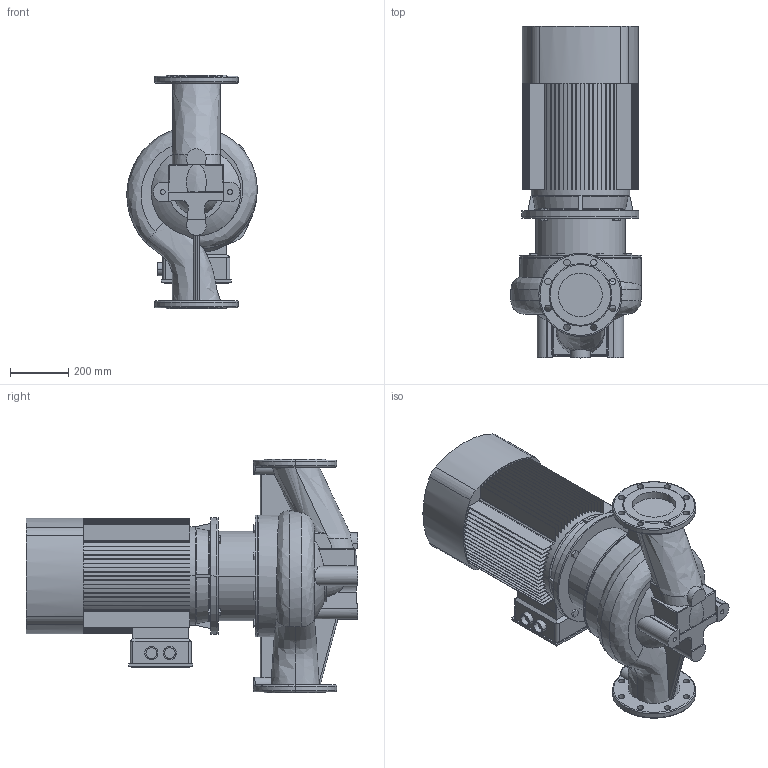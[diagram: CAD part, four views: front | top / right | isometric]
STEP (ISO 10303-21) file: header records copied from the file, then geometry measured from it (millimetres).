
FILE_DESCRIPTION (( 'STEP AP203' ), '1' );
FILE_NAME ('TD150-33_4.STEP', '2022-05-02T17:25:18', ( '' ), ( '' ), 'SwSTEP 2.0', 'SolidWorks 2019', '' );
FILE_SCHEMA (( 'CONFIG_CONTROL_DESIGN' ));
Length unit declared in the file: millimetre
Products named in the file (4): TD150-33_4; ED_B5_YE2-200L-4 (30); Fon_150_TD150-33_4; Pr_ch 150_TD150-33_4
Assembly tree (3 placements, depth 2):
  TD150-33_4
    Pr_ch 150_TD150-33_4
    Fon_150_TD150-33_4
    ED_B5_YE2-200L-4 (30)
Bounding box: 446.37 x 1136 x 800 mm (x, y, z)
Volume: 122591347.1 mm3; surface area: 4645019.3 mm2
Topology: 5 solids, 7 shells, 728 faces, 1999 edges, 1322 vertices
Faces by surface type: plane 495, cylinder 160, torus 29, bspline 25, cone 17, sphere 2
Entity records: 31478 total; most frequent: CARTESIAN_POINT 12262, ORIENTED_EDGE 3994, DIRECTION 3898, EDGE_CURVE 1997, AXIS2_PLACEMENT_3D 1352, VERTEX_POINT 1322, VECTOR 1194, LINE 1194
